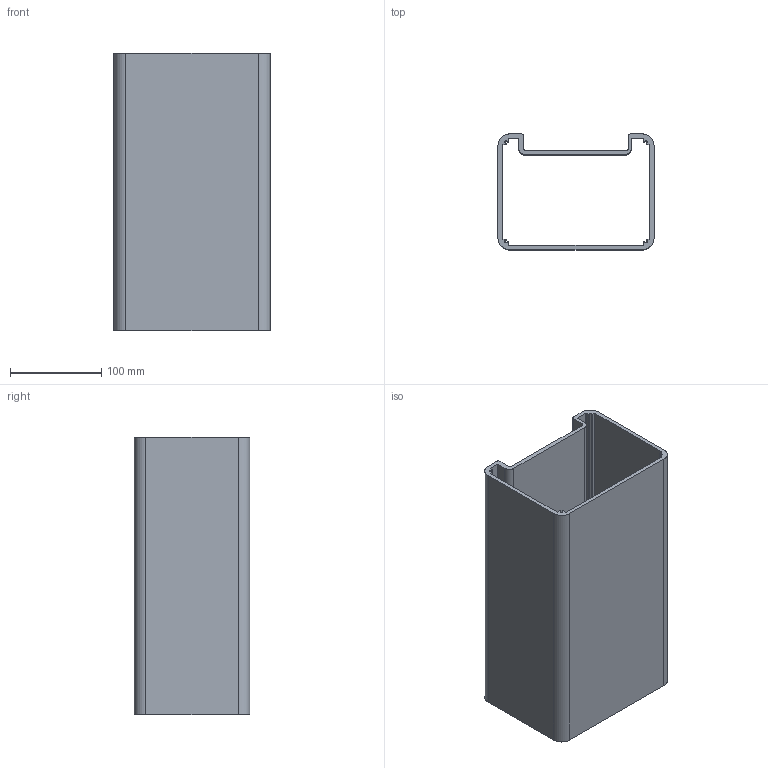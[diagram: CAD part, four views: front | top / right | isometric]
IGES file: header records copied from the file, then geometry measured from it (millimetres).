
Start section: SolidWorks IGES FILE using analytic representation for surfaces
Global section: file name: Y:\CONTENTCENTRAL\chassis\cache\CHDEFAU06142003143940.igs; native system: SolidWorks 2003 by SolidWorks Corporation; preprocessor: Version 5.3; author: PartStream; date: 030614.144759; units: inch
Bounding box: 171.45 x 127 x 304.8 mm (x, y, z)
Surface area: 374359.1 mm2 (no closed solid volume)
Topology: 0 solids, 0 shells, 68 faces, 792 edges, 792 vertices
Faces by surface type: revolution 42, bspline 26
